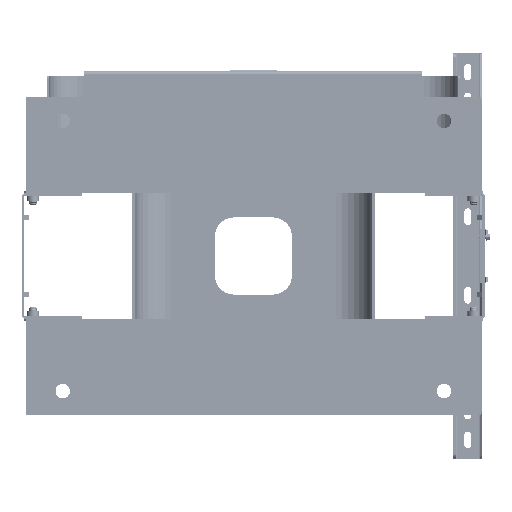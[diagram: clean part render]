
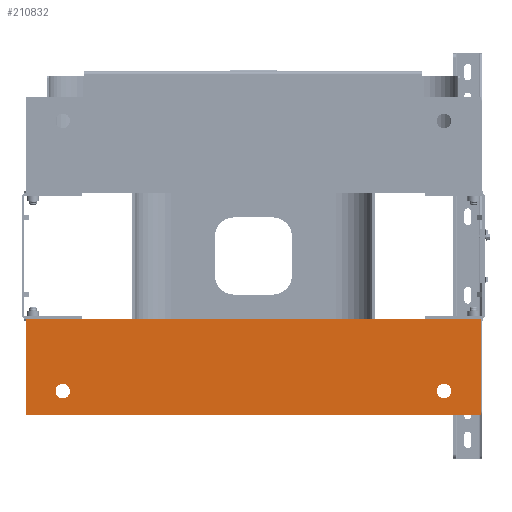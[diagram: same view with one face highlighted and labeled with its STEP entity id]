
A CAD part, front view. The second image highlights one B-rep face of the part: STEP entity #210832.
In plain terms, the highlighted planar face has unit normal (0, -1, 0).
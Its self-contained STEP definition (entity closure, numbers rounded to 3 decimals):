
#4122 = VERTEX_POINT ( 'NONE', #154541 ) ;
#4124 = VERTEX_POINT ( 'NONE', #154550 ) ;
#4144 = VERTEX_POINT ( 'NONE', #154565 ) ;
#4146 = VERTEX_POINT ( 'NONE', #154574 ) ;
#4158 = VERTEX_POINT ( 'NONE', #154601 ) ;
#4160 = VERTEX_POINT ( 'NONE', #154603 ) ;
#4162 = VERTEX_POINT ( 'NONE', #154606 ) ;
#4164 = VERTEX_POINT ( 'NONE', #154608 ) ;
#67352 = AXIS2_PLACEMENT_3D ( 'NONE', #260133, #260140, #260143 ) ;
#67355 = AXIS2_PLACEMENT_3D ( 'NONE', #260178, #260185, #260188 ) ;
#73606 = EDGE_CURVE ( 'NONE', #4164, #4162, #245230, .T. ) ;
#73648 = EDGE_CURVE ( 'NONE', #4162, #4158, #193061, .T. ) ;
#73655 = EDGE_CURVE ( 'NONE', #4164, #4160, #193069, .T. ) ;
#73709 = EDGE_CURVE ( 'NONE', #4144, #4146, #193147, .T. ) ;
#73718 = EDGE_CURVE ( 'NONE', #4122, #4124, #193162, .T. ) ;
#89292 = AXIS2_PLACEMENT_3D ( 'NONE', #253130, #253209, #253212 ) ;
#89293 = AXIS2_PLACEMENT_3D ( 'NONE', #253116, #253195, #253199 ) ;
#96309 = LINE ( 'NONE', #253173, #96311 ) ;
#96311 = VECTOR ( 'NONE', #253176, 39.37 ) ;
#96321 = CIRCLE ( 'NONE', #89293, 0.375 ) ;
#96325 = CIRCLE ( 'NONE', #89292, 0.375 ) ;
#129565 = ORIENTED_EDGE ( 'NONE', *, *, #258367, .T. ) ;
#129567 = ORIENTED_EDGE ( 'NONE', *, *, #73709, .T. ) ;
#129569 = ORIENTED_EDGE ( 'NONE', *, *, #258360, .T. ) ;
#129571 = ORIENTED_EDGE ( 'NONE', *, *, #73648, .F. ) ;
#129573 = ORIENTED_EDGE ( 'NONE', *, *, #73606, .F. ) ;
#129575 = ORIENTED_EDGE ( 'NONE', *, *, #73655, .T. ) ;
#129577 = ORIENTED_EDGE ( 'NONE', *, *, #73718, .F. ) ;
#129579 = ORIENTED_EDGE ( 'NONE', *, *, #258366, .F. ) ;
#148525 = PLANE ( 'NONE',  #168324 ) ;
#148527 = CARTESIAN_POINT ( 'NONE',  ( -11.781, 0., 0. ) ) ;
#148532 = DIRECTION ( 'NONE',  ( 0., -1., 0. ) ) ;
#148535 = DIRECTION ( 'NONE',  ( 0., 0., -1. ) ) ;
#154541 = CARTESIAN_POINT ( 'NONE',  ( 9.875, 0., 4.125 ) ) ;
#154550 = CARTESIAN_POINT ( 'NONE',  ( 9.875, 0., 3.375 ) ) ;
#154565 = CARTESIAN_POINT ( 'NONE',  ( -9.875, 0., 3.375 ) ) ;
#154574 = CARTESIAN_POINT ( 'NONE',  ( -9.875, 0., 4.125 ) ) ;
#154601 = CARTESIAN_POINT ( 'NONE',  ( 11.781, 0., 0. ) ) ;
#154603 = CARTESIAN_POINT ( 'NONE',  ( -11.781, 0., 0. ) ) ;
#154606 = CARTESIAN_POINT ( 'NONE',  ( 11.781, 0., 5. ) ) ;
#154608 = CARTESIAN_POINT ( 'NONE',  ( -11.781, 0., 5. ) ) ;
#162432 = FACE_BOUND ( 'NONE', #206686, .T. ) ;
#162436 = FACE_OUTER_BOUND ( 'NONE', #207016, .T. ) ;
#162445 = FACE_BOUND ( 'NONE', #206999, .T. ) ;
#168324 = AXIS2_PLACEMENT_3D ( 'NONE', #148527, #148532, #148535 ) ;
#193014 = VECTOR ( 'NONE', #259790, 39.37 ) ;
#193061 = LINE ( 'NONE', #259910, #193063 ) ;
#193063 = VECTOR ( 'NONE', #259912, 39.37 ) ;
#193069 = LINE ( 'NONE', #259927, #193071 ) ;
#193071 = VECTOR ( 'NONE', #259930, 39.37 ) ;
#193147 = CIRCLE ( 'NONE', #67352, 0.375 ) ;
#193162 = CIRCLE ( 'NONE', #67355, 0.375 ) ;
#206686 = EDGE_LOOP ( 'NONE', ( #129565, #129567 ) ) ;
#206999 = EDGE_LOOP ( 'NONE', ( #129577, #129579 ) ) ;
#207016 = EDGE_LOOP ( 'NONE', ( #129569, #129571, #129573, #129575 ) ) ;
#210832 = ADVANCED_FACE ( 'NONE', ( #162432, #162436, #162445 ), #148525, .T. ) ;
#245230 = LINE ( 'NONE', #259777, #193014 ) ;
#253116 = CARTESIAN_POINT ( 'NONE',  ( 9.875, 0., 3.75 ) ) ;
#253130 = CARTESIAN_POINT ( 'NONE',  ( -9.875, 0., 3.75 ) ) ;
#253173 = CARTESIAN_POINT ( 'NONE',  ( -11.781, 0., 0. ) ) ;
#253176 = DIRECTION ( 'NONE',  ( 1., 0., 0. ) ) ;
#253195 = DIRECTION ( 'NONE',  ( 0., -1., 0. ) ) ;
#253199 = DIRECTION ( 'NONE',  ( 0., 0., 1. ) ) ;
#253209 = DIRECTION ( 'NONE',  ( 0., 1., 0. ) ) ;
#253212 = DIRECTION ( 'NONE',  ( 0., 0., 1. ) ) ;
#258360 = EDGE_CURVE ( 'NONE', #4160, #4158, #96309, .T. ) ;
#258366 = EDGE_CURVE ( 'NONE', #4124, #4122, #96321, .T. ) ;
#258367 = EDGE_CURVE ( 'NONE', #4146, #4144, #96325, .T. ) ;
#259777 = CARTESIAN_POINT ( 'NONE',  ( -11.781, 0., 5. ) ) ;
#259790 = DIRECTION ( 'NONE',  ( 1., 0., 0. ) ) ;
#259910 = CARTESIAN_POINT ( 'NONE',  ( 11.781, 0., 0. ) ) ;
#259912 = DIRECTION ( 'NONE',  ( 0., 0., -1. ) ) ;
#259927 = CARTESIAN_POINT ( 'NONE',  ( -11.781, 0., 0. ) ) ;
#259930 = DIRECTION ( 'NONE',  ( 0., 0., -1. ) ) ;
#260133 = CARTESIAN_POINT ( 'NONE',  ( -9.875, 0., 3.75 ) ) ;
#260140 = DIRECTION ( 'NONE',  ( 0., 1., 0. ) ) ;
#260143 = DIRECTION ( 'NONE',  ( 0., 0., 1. ) ) ;
#260178 = CARTESIAN_POINT ( 'NONE',  ( 9.875, 0., 3.75 ) ) ;
#260185 = DIRECTION ( 'NONE',  ( 0., -1., 0. ) ) ;
#260188 = DIRECTION ( 'NONE',  ( 0., 0., 1. ) ) ;
